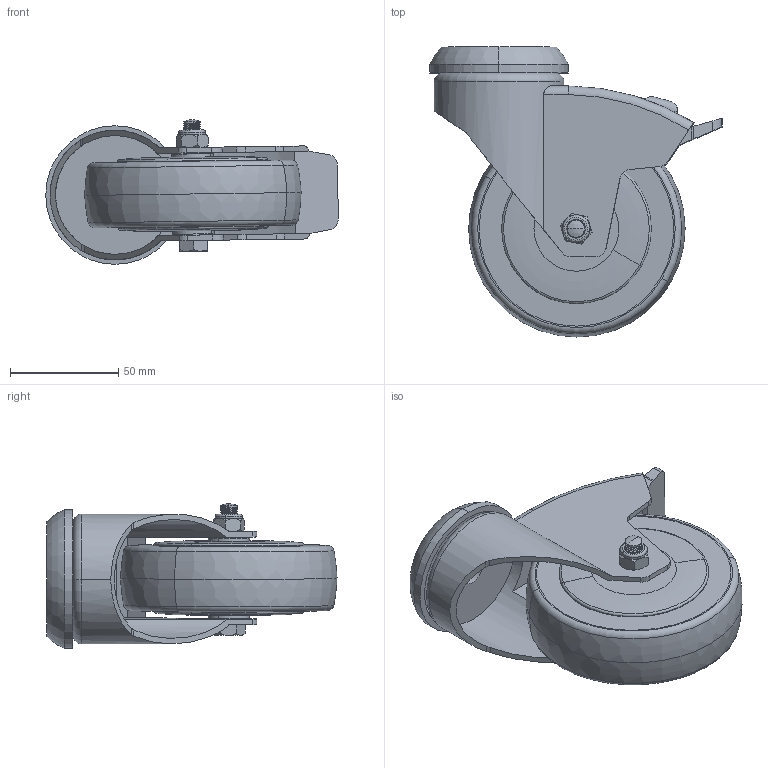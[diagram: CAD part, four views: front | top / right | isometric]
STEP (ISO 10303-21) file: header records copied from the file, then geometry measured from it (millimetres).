
FILE_DESCRIPTION (( 'STEP AP214' ), '1' );
FILE_NAME ('HCR100-H-TB.STEP', '2024-07-03T01:24:25', ( '' ), ( '' ), 'SwSTEP 2.0', 'SolidWorks 2022', '' );
FILE_SCHEMA (( 'AUTOMOTIVE_DESIGN' ));
Length unit declared in the file: millimetre
Products named in the file (6): HCR100; M8x55; HC100-H-TB F0RK; M8Nyloc; HC100 F CAP; HCR100-H-TB
Assembly tree (5 placements, depth 2):
  HCR100-H-TB
    HC100 F CAP
    M8Nyloc
    M8x55
    HCR100
    HC100-H-TB F0RK
Bounding box: 135.16 x 134 x 66.78 mm (x, y, z)
Volume: 304764.9 mm3; surface area: 92187.4 mm2
Topology: 7 solids, 7 shells, 602 faces, 1600 edges, 1055 vertices
Faces by surface type: plane 254, bspline 154, cylinder 126, torus 46, cone 20, sphere 2
Entity records: 33163 total; most frequent: CARTESIAN_POINT 19129, ORIENTED_EDGE 3200, DIRECTION 1969, EDGE_CURVE 1600, VERTEX_POINT 1055, LINE 695, VECTOR 695, EDGE_LOOP 659
